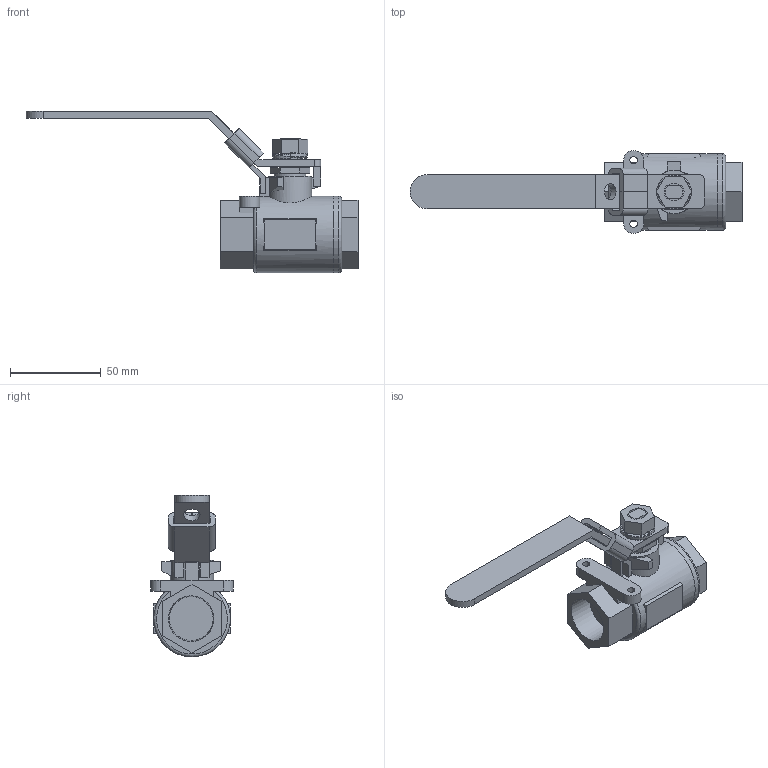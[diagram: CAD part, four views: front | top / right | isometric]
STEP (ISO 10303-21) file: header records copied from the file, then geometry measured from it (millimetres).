
FILE_DESCRIPTION((' '),'2;1');
FILE_NAME('N:\Technical Support\Private\Jomar Valve CAD\Ball Valves\CS and SS\1001N\.75 T-CS[SS]-1001N (100-974 [100-964]) FusionCopy.stp.step','2016-07-05T12:00:03',(' '),(' '),' ','ACIS',' ');
FILE_SCHEMA(('CONFIG_CONTROL_DESIGN'));
Length unit declared in the file: inch
Products named in the file (9): N:\Technical Support\Private\Jomar Valve CAD\Ball Valves\CS and SS\1001N\.75 T-CS[SS]-1001N (100-974 [100-964]) FusionCopy.stp.step; Body1; Body2; Body3; Body4; Body5; Body6; Body7; Body8
Assembly tree (8 placements, depth 2):
  N:\Technical Support\Private\Jomar Valve CAD\Ball Valves\CS and SS\1001N\.75 T-CS[SS]-1001N (100-974 [100-964]) FusionCopy.stp.step
    Body1
    Body2
    Body3
    Body4
    Body5
    Body6
    Body7
    Body8
Bounding box: 183.01 x 45.72 x 89.12 mm (x, y, z)
Volume: 109173.4 mm3; surface area: 33527.7 mm2
Topology: 8 solids, 8 shells, 179 faces, 449 edges, 292 vertices
Faces by surface type: plane 116, cylinder 27, bspline 14, cone 12, torus 10
Full cylindrical faces by diameter (mm): 4.064 x2, 9.017 x1, 9.525 x1, 11.963 x2, 17.475 x1, 23.876 x1, 42.164 x2
Entity records: 6540 total; most frequent: CARTESIAN_POINT 1025, DIRECTION 894, ORIENTED_EDGE 854, EDGE_CURVE 427, VECTOR 308, LINE 308, AXIS2_PLACEMENT_3D 293, VERTEX_POINT 285
